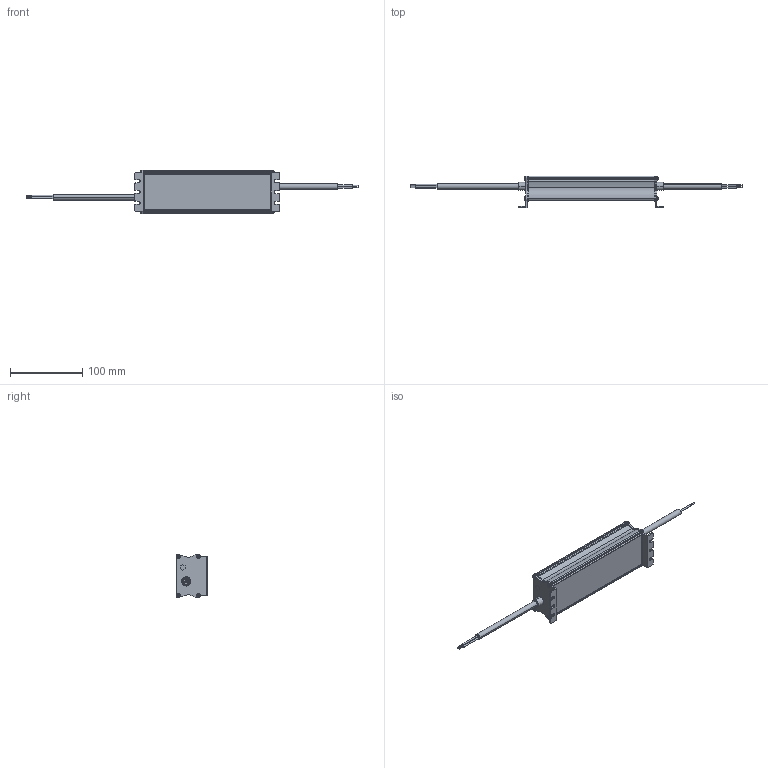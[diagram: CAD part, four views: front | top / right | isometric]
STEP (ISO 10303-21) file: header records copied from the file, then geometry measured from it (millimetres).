
FILE_DESCRIPTION((''),'2;1');
FILE_NAME('TADIA_60W_ASM_ASM','2024-12-25T08:46:14',('HUNGCHI.CHEN'),(''),'CREO PARAMETRIC BY PTC INC, 2023294','CREO PARAMETRIC BY PTC INC, 2023294','');
FILE_SCHEMA(('CONFIG_CONTROL_DESIGN'));
Length unit declared in the file: millimetre
Products named in the file (7): 399214390000; 3247819900; 348-BRACKET; 3646617004; 3647091800; 3100400600; TADIA_60W_ASM_ASM
Assembly tree (15 placements, depth 2):
  TADIA_60W_ASM_ASM
    399214390000
    3247819900  x2
    348-BRACKET  x2
    3646617004
    3647091800
    3100400600  x8
Bounding box: 461.02 x 44.2 x 60 mm (x, y, z)
Volume: 93275.2 mm3; surface area: 99555.2 mm2
Topology: 15 solids, 15 shells, 1596 faces, 4370 edges, 2868 vertices
Faces by surface type: plane 1082, cylinder 370, torus 72, cone 40, sphere 16, bspline 16
Entity records: 26804 total; most frequent: CARTESIAN_POINT 9010, ORIENTED_EDGE 3760, DIRECTION 3508, EDGE_CURVE 1880, VECTOR 1526, LINE 1526, VERTEX_POINT 1251, AXIS2_PLACEMENT_3D 991
